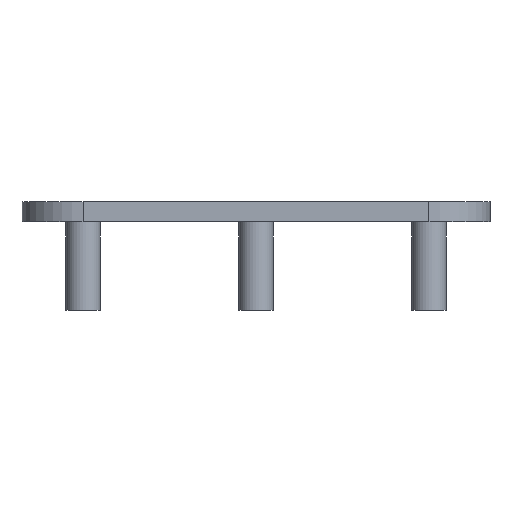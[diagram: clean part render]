
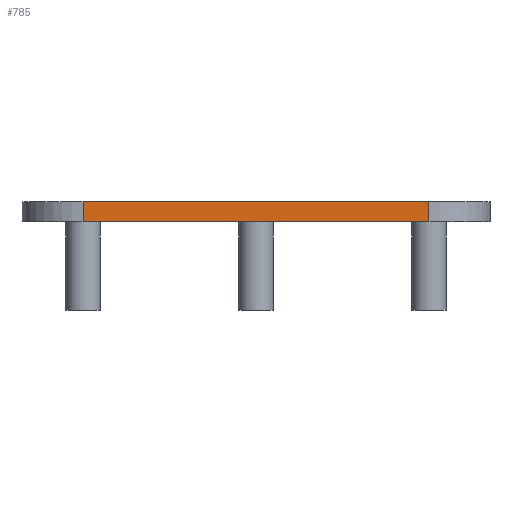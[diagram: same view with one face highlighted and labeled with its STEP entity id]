
A CAD part, front view. The second image highlights one B-rep face of the part: STEP entity #785.
In plain terms, the highlighted planar face has unit normal (0, -1, 0).
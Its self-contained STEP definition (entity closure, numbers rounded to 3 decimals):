
#24 = VERTEX_POINT('',#25);
#25 = CARTESIAN_POINT('',(-17.,-50.,18.));
#33 = PLANE('',#34);
#34 = AXIS2_PLACEMENT_3D('',#35,#36,#37);
#35 = CARTESIAN_POINT('',(-17.,-50.,18.));
#36 = DIRECTION('',(0.,0.,1.));
#37 = DIRECTION('',(1.,0.,-0.));
#45 = CYLINDRICAL_SURFACE('',#46,6.);
#46 = AXIS2_PLACEMENT_3D('',#47,#48,#49);
#47 = CARTESIAN_POINT('',(-17.,-44.,16.));
#48 = DIRECTION('',(0.,0.,1.));
#49 = DIRECTION('',(1.,0.,-0.));
#57 = EDGE_CURVE('',#24,#58,#60,.T.);
#58 = VERTEX_POINT('',#59);
#59 = CARTESIAN_POINT('',(17.,-50.,18.));
#60 = SURFACE_CURVE('',#61,(#65,#72),.PCURVE_S1.);
#61 = LINE('',#62,#63);
#62 = CARTESIAN_POINT('',(-17.,-50.,18.));
#63 = VECTOR('',#64,1.);
#64 = DIRECTION('',(1.,0.,-0.));
#65 = PCURVE('',#33,#66);
#66 = DEFINITIONAL_REPRESENTATION('',(#67),#71);
#67 = LINE('',#68,#69);
#68 = CARTESIAN_POINT('',(0.,0.));
#69 = VECTOR('',#70,1.);
#70 = DIRECTION('',(1.,0.));
#71 = ( GEOMETRIC_REPRESENTATION_CONTEXT(2) 
PARAMETRIC_REPRESENTATION_CONTEXT() REPRESENTATION_CONTEXT('2D SPACE',''
  ) );
#72 = PCURVE('',#73,#78);
#73 = PLANE('',#74);
#74 = AXIS2_PLACEMENT_3D('',#75,#76,#77);
#75 = CARTESIAN_POINT('',(-17.,-50.,16.));
#76 = DIRECTION('',(-0.,1.,0.));
#77 = DIRECTION('',(0.,0.,1.));
#78 = DEFINITIONAL_REPRESENTATION('',(#79),#83);
#79 = LINE('',#80,#81);
#80 = CARTESIAN_POINT('',(2.,0.));
#81 = VECTOR('',#82,1.);
#82 = DIRECTION('',(0.,1.));
#83 = ( GEOMETRIC_REPRESENTATION_CONTEXT(2) 
PARAMETRIC_REPRESENTATION_CONTEXT() REPRESENTATION_CONTEXT('2D SPACE',''
  ) );
#102 = CYLINDRICAL_SURFACE('',#103,6.);
#103 = AXIS2_PLACEMENT_3D('',#104,#105,#106);
#104 = CARTESIAN_POINT('',(17.,-44.,16.));
#105 = DIRECTION('',(0.,0.,1.));
#106 = DIRECTION('',(1.,0.,-0.));
#688 = VERTEX_POINT('',#689);
#689 = CARTESIAN_POINT('',(-17.,-50.,16.));
#704 = PLANE('',#705);
#705 = AXIS2_PLACEMENT_3D('',#706,#707,#708);
#706 = CARTESIAN_POINT('',(-17.,-44.,16.));
#707 = DIRECTION('',(0.,0.,1.));
#708 = DIRECTION('',(1.,0.,-0.));
#716 = EDGE_CURVE('',#688,#24,#717,.T.);
#717 = SURFACE_CURVE('',#718,(#722,#729),.PCURVE_S1.);
#718 = LINE('',#719,#720);
#719 = CARTESIAN_POINT('',(-17.,-50.,16.));
#720 = VECTOR('',#721,1.);
#721 = DIRECTION('',(0.,0.,1.));
#722 = PCURVE('',#45,#723);
#723 = DEFINITIONAL_REPRESENTATION('',(#724),#728);
#724 = LINE('',#725,#726);
#725 = CARTESIAN_POINT('',(4.712,0.));
#726 = VECTOR('',#727,1.);
#727 = DIRECTION('',(0.,1.));
#728 = ( GEOMETRIC_REPRESENTATION_CONTEXT(2) 
PARAMETRIC_REPRESENTATION_CONTEXT() REPRESENTATION_CONTEXT('2D SPACE',''
  ) );
#729 = PCURVE('',#73,#730);
#730 = DEFINITIONAL_REPRESENTATION('',(#731),#735);
#731 = LINE('',#732,#733);
#732 = CARTESIAN_POINT('',(0.,0.));
#733 = VECTOR('',#734,1.);
#734 = DIRECTION('',(1.,0.));
#735 = ( GEOMETRIC_REPRESENTATION_CONTEXT(2) 
PARAMETRIC_REPRESENTATION_CONTEXT() REPRESENTATION_CONTEXT('2D SPACE',''
  ) );
#785 = ADVANCED_FACE('',(#786),#73,.F.);
#786 = FACE_BOUND('',#787,.F.);
#787 = EDGE_LOOP('',(#788,#811,#812,#813));
#788 = ORIENTED_EDGE('',*,*,#789,.F.);
#789 = EDGE_CURVE('',#688,#790,#792,.T.);
#790 = VERTEX_POINT('',#791);
#791 = CARTESIAN_POINT('',(17.,-50.,16.));
#792 = SURFACE_CURVE('',#793,(#797,#804),.PCURVE_S1.);
#793 = LINE('',#794,#795);
#794 = CARTESIAN_POINT('',(-17.,-50.,16.));
#795 = VECTOR('',#796,1.);
#796 = DIRECTION('',(1.,0.,-0.));
#797 = PCURVE('',#73,#798);
#798 = DEFINITIONAL_REPRESENTATION('',(#799),#803);
#799 = LINE('',#800,#801);
#800 = CARTESIAN_POINT('',(0.,0.));
#801 = VECTOR('',#802,1.);
#802 = DIRECTION('',(0.,1.));
#803 = ( GEOMETRIC_REPRESENTATION_CONTEXT(2) 
PARAMETRIC_REPRESENTATION_CONTEXT() REPRESENTATION_CONTEXT('2D SPACE',''
  ) );
#804 = PCURVE('',#704,#805);
#805 = DEFINITIONAL_REPRESENTATION('',(#806),#810);
#806 = LINE('',#807,#808);
#807 = CARTESIAN_POINT('',(0.,-6.));
#808 = VECTOR('',#809,1.);
#809 = DIRECTION('',(1.,0.));
#810 = ( GEOMETRIC_REPRESENTATION_CONTEXT(2) 
PARAMETRIC_REPRESENTATION_CONTEXT() REPRESENTATION_CONTEXT('2D SPACE',''
  ) );
#811 = ORIENTED_EDGE('',*,*,#716,.T.);
#812 = ORIENTED_EDGE('',*,*,#57,.T.);
#813 = ORIENTED_EDGE('',*,*,#814,.F.);
#814 = EDGE_CURVE('',#790,#58,#815,.T.);
#815 = SURFACE_CURVE('',#816,(#820,#827),.PCURVE_S1.);
#816 = LINE('',#817,#818);
#817 = CARTESIAN_POINT('',(17.,-50.,16.));
#818 = VECTOR('',#819,1.);
#819 = DIRECTION('',(0.,0.,1.));
#820 = PCURVE('',#73,#821);
#821 = DEFINITIONAL_REPRESENTATION('',(#822),#826);
#822 = LINE('',#823,#824);
#823 = CARTESIAN_POINT('',(0.,34.));
#824 = VECTOR('',#825,1.);
#825 = DIRECTION('',(1.,0.));
#826 = ( GEOMETRIC_REPRESENTATION_CONTEXT(2) 
PARAMETRIC_REPRESENTATION_CONTEXT() REPRESENTATION_CONTEXT('2D SPACE',''
  ) );
#827 = PCURVE('',#102,#828);
#828 = DEFINITIONAL_REPRESENTATION('',(#829),#833);
#829 = LINE('',#830,#831);
#830 = CARTESIAN_POINT('',(4.712,0.));
#831 = VECTOR('',#832,1.);
#832 = DIRECTION('',(0.,1.));
#833 = ( GEOMETRIC_REPRESENTATION_CONTEXT(2) 
PARAMETRIC_REPRESENTATION_CONTEXT() REPRESENTATION_CONTEXT('2D SPACE',''
  ) );
